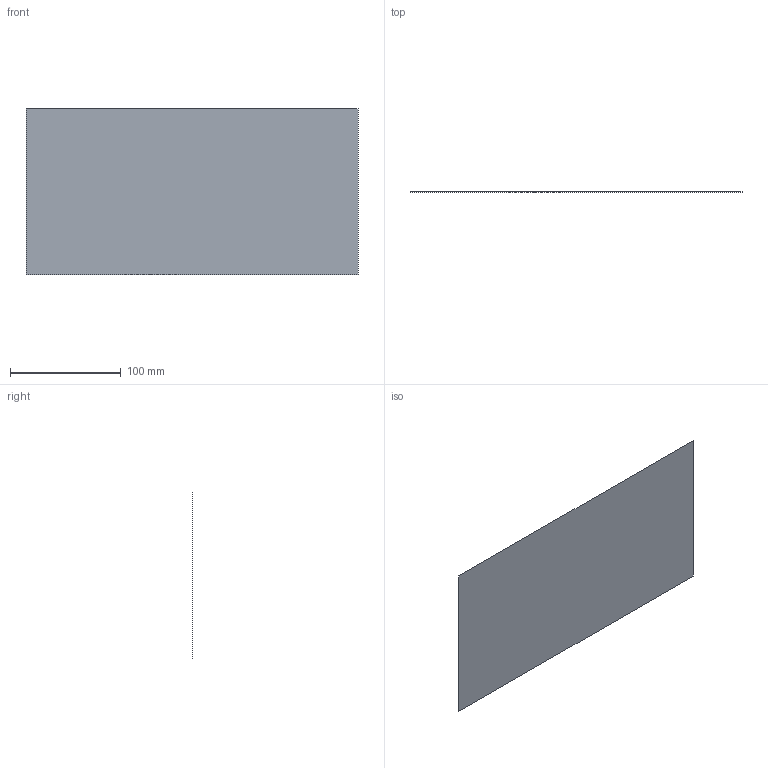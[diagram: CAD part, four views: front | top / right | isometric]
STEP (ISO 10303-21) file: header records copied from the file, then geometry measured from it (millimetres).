
FILE_DESCRIPTION (( 'STEP AP203' ), '1' );
FILE_NAME ('26.3.STEP', '2025-11-17T23:03:28', ( '' ), ( '' ), 'SwSTEP 2.0', 'SolidWorks 2025', '' );
FILE_SCHEMA (( 'CONFIG_CONTROL_DESIGN' ));
Length unit declared in the file: millimetre
Products named in the file (1): 26.3
Bounding box: 300 x 0 x 150 mm (x, y, z)
Surface area: 45000 mm2 (no closed solid volume)
Topology: 0 solids, 1 shells, 1 faces, 4 edges, 4 vertices
Faces by surface type: plane 1
Entity records: 125 total; most frequent: CARTESIAN_POINT 10, DIRECTION 8, PERSON_AND_ORGANIZATION 8, COORDINATED_UNIVERSAL_TIME_OFFSET 5, PERSON_AND_ORGANIZATION_ROLE 5, DATE_AND_TIME 5, CALENDAR_DATE 5, CC_DESIGN_PERSON_AND_ORGANIZATION_ASSIGNMENT 5
